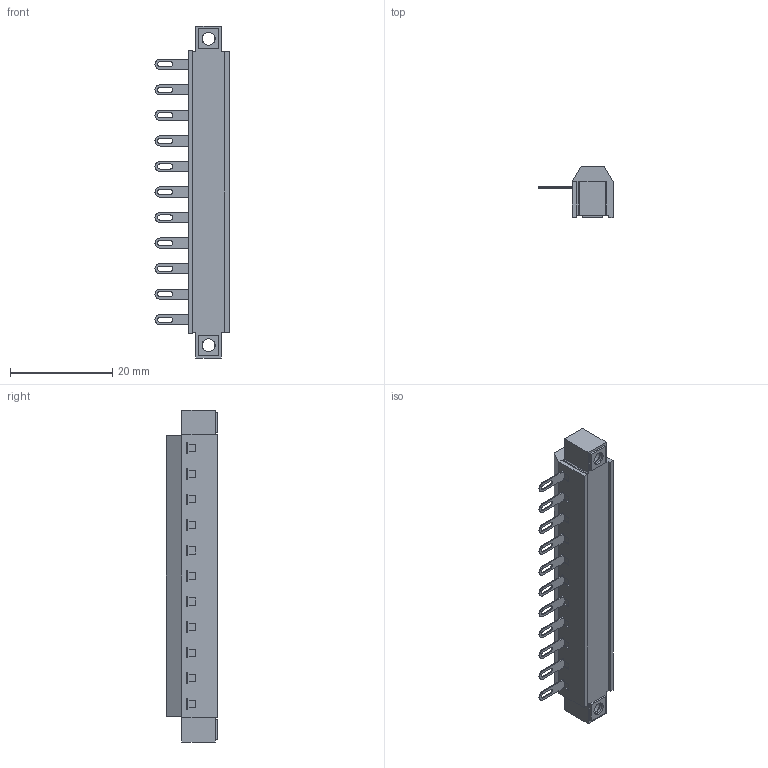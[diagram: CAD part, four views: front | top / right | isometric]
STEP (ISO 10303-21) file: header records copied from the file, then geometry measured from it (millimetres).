
FILE_DESCRIPTION (( 'STEP AP214' ), '1' );
FILE_NAME ('951-A-LFDS-11.STEP', '2008-04-15T06:04:51', ( ' ' ), ( '' ), 'SwSTEP 2.0', 'SolidWorks 2007', '' );
FILE_SCHEMA (( 'AUTOMOTIVE_DESIGN' ));
Length unit declared in the file: millimetre
Products named in the file (1): 951-A-LFDS-11
Bounding box: 14.5 x 10 x 65 mm (x, y, z)
Volume: 3721.1 mm3; surface area: 3698 mm2
Topology: 1 solids, 1 shells, 881 faces, 2914 edges, 1940 vertices
Faces by surface type: plane 696, cylinder 129, cone 30, bspline 26
Entity records: 33154 total; most frequent: CARTESIAN_POINT 7611, ORIENTED_EDGE 5828, DIRECTION 4813, EDGE_CURVE 2914, VECTOR 2073, LINE 2073, VERTEX_POINT 1940, AXIS2_PLACEMENT_3D 1370
